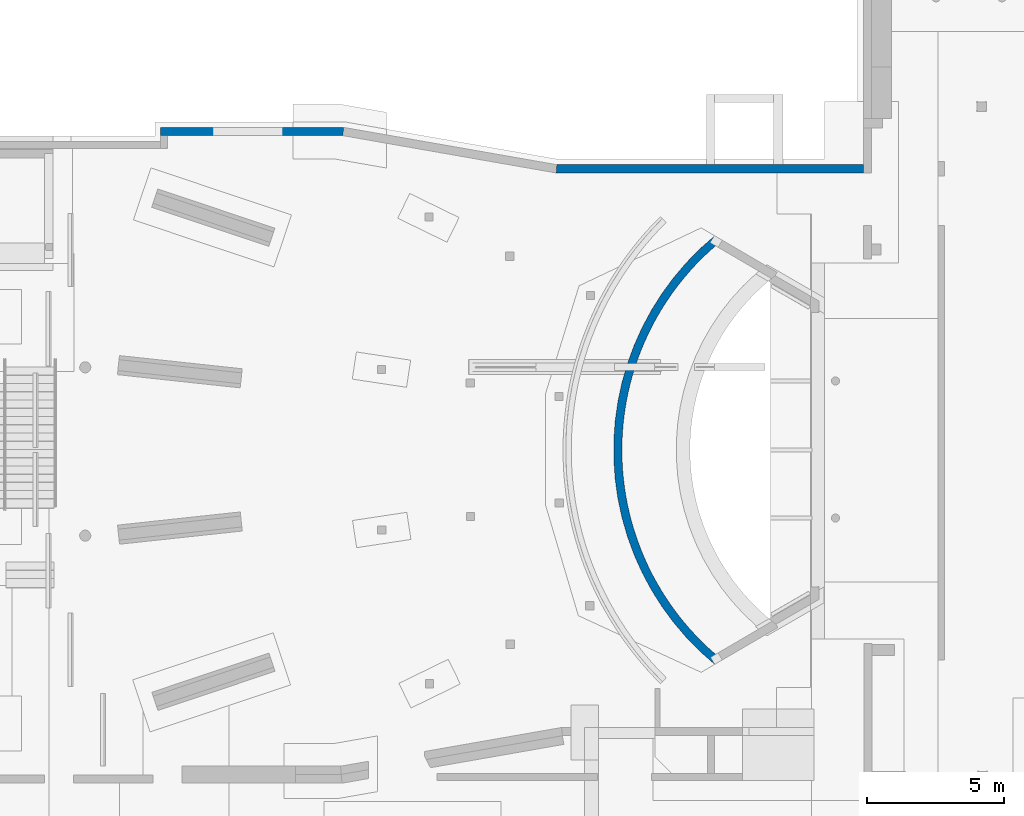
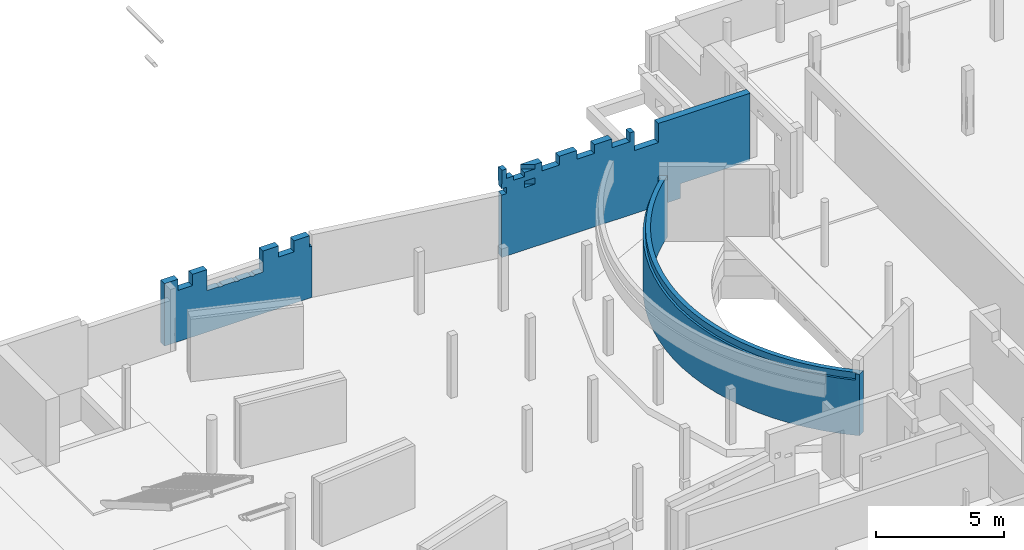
# One storey, part 41 of 42: 3 walls.
"""IFC2X3 building model written with IfcOpenShell, lengths in millimetres."""

from ifc_helpers import new_model, entity, si_unit, converted_unit, derived_unit, direction, frame, origin, place, context, subcontext, project, spatial, faceted_brep, material, layer, layer_set, type_object, element, save


model = new_model("IFC2X3")

# Units and contexts
model_context = context("Model", 3, precision=0.01, world=origin(), true_north=direction((6.12303176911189e-17, 1.0)))
body_context = subcontext(model_context, "Body", "Model", "MODEL_VIEW")
ifc_project = project(units=[si_unit("LENGTHUNIT", "METRE", prefix="MILLI"), si_unit("AREAUNIT", "SQUARE_METRE", prefix="MILLI"), si_unit("VOLUMEUNIT", "CUBIC_METRE"), converted_unit("PLANEANGLEUNIT", "DEGREE", entity("IfcRatioMeasure", 0.0174532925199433), si_unit("PLANEANGLEUNIT", "RADIAN"), dimensions=[0, 0, 0, 0, 0, 0, 0]), si_unit("MASSUNIT", "GRAM", prefix="KILO"), derived_unit("MASSDENSITYUNIT", [(si_unit("MASSUNIT", "GRAM", prefix="KILO"), 1), (si_unit("LENGTHUNIT", "METRE"), -3)]), derived_unit("MOMENTOFINERTIAUNIT", [(si_unit("LENGTHUNIT", "METRE"), 4)]), si_unit("TIMEUNIT", "SECOND"), si_unit("FREQUENCYUNIT", "HERTZ"), si_unit("THERMODYNAMICTEMPERATUREUNIT", "DEGREE_CELSIUS"), derived_unit("THERMALTRANSMITTANCEUNIT", [(si_unit("MASSUNIT", "GRAM", prefix="KILO"), 1), (si_unit("THERMODYNAMICTEMPERATUREUNIT", "KELVIN"), -1), (si_unit("TIMEUNIT", "SECOND"), -3)]), derived_unit("VOLUMETRICFLOWRATEUNIT", [(si_unit("LENGTHUNIT", "METRE"), 3), (si_unit("TIMEUNIT", "SECOND"), -1)]), si_unit("ELECTRICCURRENTUNIT", "AMPERE"), si_unit("ELECTRICVOLTAGEUNIT", "VOLT"), si_unit("POWERUNIT", "WATT"), si_unit("FORCEUNIT", "NEWTON", prefix="KILO"), si_unit("ILLUMINANCEUNIT", "LUX"), si_unit("LUMINOUSFLUXUNIT", "LUMEN"), si_unit("LUMINOUSINTENSITYUNIT", "CANDELA"), derived_unit("USERDEFINED", [(si_unit("MASSUNIT", "GRAM", prefix="KILO"), -1), (si_unit("LENGTHUNIT", "METRE"), -2), (si_unit("TIMEUNIT", "SECOND"), 3), (si_unit("LUMINOUSFLUXUNIT", "LUMEN"), 1)]), derived_unit("LINEARVELOCITYUNIT", [(si_unit("LENGTHUNIT", "METRE"), 1), (si_unit("TIMEUNIT", "SECOND"), -1)]), si_unit("PRESSUREUNIT", "PASCAL"), derived_unit("USERDEFINED", [(si_unit("LENGTHUNIT", "METRE"), -2), (si_unit("MASSUNIT", "GRAM", prefix="KILO"), 1), (si_unit("TIMEUNIT", "SECOND"), -2)]), derived_unit("LINEARFORCEUNIT", [(si_unit("MASSUNIT", "GRAM", prefix="KILO"), 1), (si_unit("LENGTHUNIT", "METRE"), 1), (si_unit("TIMEUNIT", "SECOND"), -2), (si_unit("LENGTHUNIT", "METRE"), -1)]), derived_unit("PLANARFORCEUNIT", [(si_unit("MASSUNIT", "GRAM", prefix="KILO"), 1), (si_unit("LENGTHUNIT", "METRE"), 1), (si_unit("TIMEUNIT", "SECOND"), -2), (si_unit("LENGTHUNIT", "METRE"), -2)])], contexts=[model_context])

# Site, building, storey
site_placement = place(None, origin())
site = spatial("IfcSite", under=ifc_project, at=site_placement, Name="Theater aan de Parade", CompositionType="ELEMENT")
building_placement = place(site_placement, origin())
building = spatial("IfcBuilding", under=site, at=building_placement, Name="Theater aan de Parade", CompositionType="ELEMENT")
storey_placement = place(building_placement, frame((0.0, 0.0, -3300.0)))
storey = spatial("IfcBuildingStorey", under=building, at=storey_placement, Name="-1 kelder", CompositionType="ELEMENT", Elevation=-3300.0)

# Walls
ifc_material_1 = material(Name="00_PBT_MAT_beton t.p.g.")
ifc_layer_1 = layer(ifc_material_1, 300.0)
ifc_layer_set_1 = layer_set([ifc_layer_1], Name="Basic Wall:16_PBT_WA_beton t.p.g._d=300_bestaand")
wall_type_1 = type_object("IfcWallType", Name="Basic Wall:16_PBT_WA_beton t.p.g._d=300_bestaand", PredefinedType="STANDARD", material=ifc_layer_set_1)
wall_1_placement = place(storey_placement, frame((59441.4285714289, 42700.0, -40.0)))
element("IfcWall", 1, at=wall_1_placement, inside=storey, type_object=wall_type_1, Name="Basic Wall:16_PBT_WA_beton t.p.g._d=300_bestaand", ObjectType="Basic Wall:16_PBT_WA_beton t.p.g._d=300_bestaand", context=body_context, shape_type="Brep", body=[
    faceted_brep([(11198.5714285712, -150.0, 700.0), (11198.5714285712, -150.0, 3920.0), (11048.5714285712, -150.0, 3920.0), (7764.63097970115, -150.0, 3920.0), (7054.82350407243, -150.0, 3920.0), (7054.82350407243, -150.0, 3009.99110733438), (5980.62350407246, -150.0, 3009.99110733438), (5980.62350407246, -150.0, 3920.0), (5826.14764923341, -150.0, 3920.0), (5822.91216672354, -150.0, 3920.0), (5770.62350407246, -150.0, 3920.0), (5770.62350407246, -150.0, 3500.0), (4965.60299188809, -150.0, 3500.0), (4965.60299188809, -150.0, 3920.0), (4175.60299188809, -150.0, 3920.0), (4175.60299188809, -150.0, 3500.0), (3385.60299188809, -150.0, 3500.0), (3385.60299188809, -150.0, 3920.0), (2595.60299188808, -150.0, 3920.0), (2595.60299188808, -150.0, 3500.0), (1805.60299188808, -150.0, 3500.0), (1805.60299188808, -150.0, 3920.0), (1493.14810399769, -150.0, 3920.0), (1493.14810399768, -150.0, 3700.0), (1015.60299188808, -150.0, 3700.0), (1015.60299188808, -150.0, 3500.0), (523.453684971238, -150.0, 3500.0), (523.453684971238, -150.0, 3700.0), (225.602991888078, -150.0, 3700.0), (225.602991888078, -150.0, 4150.0), (13.026021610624, -150.0, 4150.0), (13.026021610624, -150.0, 3500.0), (0.0, -150.0, 3500.0), (0.0, -150.0, 3280.0), (225.602991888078, -150.0, 3280.0), (225.602991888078, -150.0, 2980.0), (0.0, -150.0, 2980.0), (0.0, -150.0, 0.0), (8048.41950610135, -150.0, 0.0), (8048.41950610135, -150.0, 300.0), (8048.41950610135, -150.0, 700.0), (1493.14810399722, -150.0, 3280.0), (1493.1481039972, -150.0, 2980.0), (1015.60299188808, -150.0, 2980.0), (1015.60299188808, -150.0, 3280.0), (11198.5714285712, 150.0, 3920.0), (11198.5714285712, 150.0, 700.0), (8048.41950610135, 150.0, 700.0), (8048.41950610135, 150.0, 300.0), (8048.41950610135, 150.0, 0.0), (26.052043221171, 150.0, 0.0), (26.0520432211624, 150.0, 2980.0), (225.602991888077, 150.0, 2980.0), (225.602991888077, 150.0, 3280.0), (26.0520432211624, 150.0, 3280.0), (26.0520432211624, 150.0, 3500.0), (13.0260216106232, 150.0, 3500.0), (13.0260216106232, 150.0, 4150.0), (26.0520432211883, 150.0, 4150.0), (225.602991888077, 150.0, 4150.0), (225.602991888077, 150.0, 3700.0), (523.453684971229, 150.0, 3700.0), (523.453684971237, 150.0, 3500.0), (1015.60299188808, 150.0, 3500.0), (1015.60299188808, 150.0, 3920.0), (1805.60299188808, 150.0, 3920.0), (1805.60299188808, 150.0, 3500.0), (2595.60299188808, 150.0, 3500.0), (2595.60299188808, 150.0, 3920.0), (3385.60299188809, 150.0, 3920.0), (3385.60299188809, 150.0, 3500.0), (4175.60299188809, 150.0, 3500.0), (4175.60299188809, 150.0, 3920.0), (4965.60299188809, 150.0, 3920.0), (4965.60299188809, 150.0, 3500.0), (5770.62350407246, 150.0, 3500.0), (5770.62350407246, 150.0, 3920.0), (5978.57142857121, 150.0, 3920.0), (5980.62350407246, 150.0, 3920.0), (5980.62350407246, 150.0, 3009.99110733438), (7054.82350407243, 150.0, 3009.99110733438), (7054.82350407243, 150.0, 3920.0), (7764.63097970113, 150.0, 3920.0), (1015.60299188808, 125.661140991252, 3280.0), (1015.60299188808, 125.661140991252, 2980.0), (1015.60299188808, 125.66114099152, 3920.0), (1015.60299188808, 125.66114099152, 3700.0), (13.0260216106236, 0.0, 3500.0)], [[[0, 1, 2, 3, 4, 5, 6, 7, 8, 9, 10, 11, 12, 13, 14, 15, 16, 17, 18, 19, 20, 21, 22, 23, 24, 25, 26, 27, 28, 29, 30, 31, 32, 33, 34, 35, 36, 37, 38, 39, 40], [41, 42, 43, 44]], [[45, 46, 47, 48, 49, 50, 51, 52, 53, 54, 55, 56, 57, 58, 59, 60, 61, 62, 63, 64, 65, 66, 67, 68, 69, 70, 71, 72, 73, 74, 75, 76, 77, 78, 79, 80, 81, 82]], [[36, 35, 52, 51]], [[83, 41, 44]], [[42, 41, 83, 84]], [[1, 0, 46, 45]], [[1, 45, 82, 81, 4, 3, 2]], [[30, 29, 59, 58, 57]], [[46, 0, 40, 47]], [[47, 40, 39, 38, 49, 48]], [[38, 37, 50, 49]], [[12, 74, 73, 13]], [[14, 13, 73, 72]], [[14, 72, 71, 15]], [[16, 70, 69, 17]], [[18, 17, 69, 68]], [[18, 68, 67, 19]], [[20, 66, 65, 21]], [[22, 21, 65, 64, 85]], [[24, 23, 86]], [[29, 28, 60, 59]], [[5, 4, 81, 80]], [[6, 5, 80, 79]], [[52, 35, 34, 53]], [[43, 84, 83, 44]], [[15, 71, 70, 16]], [[63, 25, 24, 86, 85, 64]], [[26, 62, 61, 27]], [[7, 78, 77, 76, 10, 9, 8]], [[10, 76, 75, 11]], [[31, 87, 32]], [[32, 87, 55, 54, 33]], [[56, 55, 87]], [[23, 22, 85, 86]], [[30, 57, 56, 87, 31]], [[6, 79, 78, 7]], [[50, 37, 36, 51]], [[19, 67, 66, 20]], [[25, 63, 62, 26]], [[74, 12, 11, 75]], [[60, 28, 27, 61]], [[34, 33, 54, 53]], [[42, 84, 43]]]),
])
wall_2_placement = place(storey_placement, frame((45025.0, 44060.0, -40.0)))
element("IfcWall", 2, at=wall_2_placement, inside=storey, type_object=wall_type_1, Name="Basic Wall:16_PBT_WA_beton t.p.g._d=300_bestaand", ObjectType="Basic Wall:16_PBT_WA_beton t.p.g._d=300_bestaand", context=body_context, shape_type="Brep", body=[
    faceted_brep([(0.0, -150.0, 0.0), (250.0, -150.0, 0.0), (6645.0, -150.0, 0.0), (6645.0, -150.0, 2450.0), (6545.0, -150.0, 2450.0), (6545.0, -150.0, 2980.0), (6220.0, -150.0, 2980.0), (6070.0, -150.0, 2980.0), (5845.0, -150.0, 2980.0), (5845.0, -150.0, 2450.0), (5145.0, -150.0, 2450.0), (5145.0, -150.0, 2980.0), (4445.0, -150.0, 2980.0), (4445.0, -150.0, 2450.0), (4445.0, -150.0, 1980.0), (4080.0, -150.0, 1980.0), (4080.0, -150.0, 1950.0), (3920.0, -150.0, 1950.0), (3920.0, -150.0, 1980.0), (3360.0, -150.0, 1980.0), (3360.0, -150.0, 1950.0), (3200.0, -150.0, 1950.0), (3200.0, -150.0, 1980.0), (2640.0, -150.0, 1980.0), (2640.0, -150.0, 1950.0), (2480.0, -150.0, 1950.0), (2480.0, -150.0, 1980.0), (1915.0, -150.0, 1980.0), (1915.0, -150.0, 2450.0), (1915.0, -150.0, 2980.0), (1265.0, -150.0, 2980.0), (1265.0, -150.0, 2450.0), (615.0, -150.0, 2450.0), (615.0, -150.0, 2980.0), (250.0, -150.0, 2980.0), (0.0, -150.0, 2980.0), (0.0, -150.0, 2450.0), (6671.05204322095, 150.0, 0.0), (0.0, 150.0, 0.0), (0.0, 150.0, 2450.0), (0.0, 150.0, 2980.0), (615.0, 150.0, 2980.0), (615.0, 150.0, 2450.0), (1265.0, 150.0, 2450.0), (1265.0, 150.0, 2980.0), (1915.0, 150.0, 2980.0), (1915.0, 150.0, 2450.0), (1915.0, 150.0, 1980.0), (2480.0, 150.0, 1980.0), (2480.0, 150.0, 1950.0), (2640.0, 150.0, 1950.0), (2640.0, 150.0, 1980.0), (3200.0, 150.0, 1980.0), (3200.0, 150.0, 1950.0), (3360.0, 150.0, 1950.0), (3360.0, 150.0, 1980.0), (3920.0, 150.0, 1980.0), (3920.0, 150.0, 1950.0), (4080.0, 150.0, 1950.0), (4080.0, 150.0, 1980.0), (4445.0, 150.0, 1980.0), (4445.0, 150.0, 2450.0), (4445.0, 150.0, 2980.0), (5145.0, 150.0, 2980.0), (5145.0, 150.0, 2450.0), (5845.0, 150.0, 2450.0), (5845.0, 150.0, 2980.0), (6545.0, 150.0, 2980.0), (6545.0, 150.0, 2450.0), (6671.05204322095, 150.0, 2450.0)], [[[0, 1, 2, 3, 4, 5, 6, 7, 8, 9, 10, 11, 12, 13, 14, 15, 16, 17, 18, 19, 20, 21, 22, 23, 24, 25, 26, 27, 28, 29, 30, 31, 32, 33, 34, 35, 36]], [[37, 38, 39, 40, 41, 42, 43, 44, 45, 46, 47, 48, 49, 50, 51, 52, 53, 54, 55, 56, 57, 58, 59, 60, 61, 62, 63, 64, 65, 66, 67, 68, 69]], [[2, 37, 69, 3]], [[35, 40, 39, 38, 0, 36]], [[2, 1, 0, 38, 37]], [[8, 7, 6, 5, 67, 66]], [[27, 47, 46, 45, 29, 28]], [[60, 14, 13, 12, 62, 61]], [[15, 14, 60, 59]], [[16, 15, 59, 58]], [[17, 16, 58, 57]], [[18, 17, 57, 56]], [[19, 18, 56, 55]], [[20, 19, 55, 54]], [[21, 20, 54, 53]], [[22, 21, 53, 52]], [[23, 22, 52, 51]], [[24, 23, 51, 50]], [[25, 24, 50, 49]], [[26, 25, 49, 48]], [[27, 26, 48, 47]], [[31, 43, 42, 32]], [[43, 31, 30, 44]], [[32, 42, 41, 33]], [[4, 68, 67, 5]], [[65, 9, 8, 66]], [[10, 64, 63, 11]], [[9, 65, 64, 10]], [[68, 4, 3, 69]], [[12, 11, 63, 62]], [[30, 29, 45, 44]], [[40, 35, 34, 33, 41]]]),
])
ifc_material_2 = material(Name="00_PBT_MAT_beton t.p.g._C30/37")
ifc_layer_2 = layer(ifc_material_2, 300.0)
ifc_layer_set_2 = layer_set([ifc_layer_2], Name="Basic Wall:28_PBT_WA_beton t.p.g._d=300_C30/37")
wall_type_2 = type_object("IfcWallType", Name="Basic Wall:28_PBT_WA_beton t.p.g._d=300_C30/37", PredefinedType="STANDARD", material=ifc_layer_set_2)
wall_3_placement = place(storey_placement, frame((65401.6030437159, 40215.5330916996, 310.0)))
element("IfcWall", 3, at=wall_3_placement, inside=storey, type_object=wall_type_2, Name="Basic Wall:28_PBT_WA_beton t.p.g._d=300_C30/37", ObjectType="Basic Wall:28_PBT_WA_beton t.p.g._d=300_C30/37", context=body_context, shape_type="Brep", body=[
    faceted_brep([(-3078.79495195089, -4124.94220525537, 2930.0), (-3313.11341783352, -4795.57646024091, 2930.0), (-3499.36066628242, -5481.11815106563, 2930.0), (-3636.60184563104, -6178.12626156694, 2930.0), (-3724.14808586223, -6883.10222089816, 2930.0), (-3761.55995633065, -7592.50746429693, 2930.0), (-3761.39695558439, -7947.75869851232, 2930.0), (-3723.33410490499, -8657.12931167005, 2930.0), (-3635.14097016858, -9362.02463609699, 2930.0), (-3497.2602290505, -10058.9065117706, 2930.0), (-3310.38396179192, -10744.2770014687, 2930.0), (-3075.4501773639, -11414.6959483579, 2930.0), (-2793.63810521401, -12066.7982435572, 2930.0), (-2466.36227622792, -12697.3107170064, 2930.0), (-2095.26542261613, -13303.0685668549, 2930.0), (-1682.21023236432, -13881.0312449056, 2930.0), (-1229.26999963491, -14428.2977183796, 2930.0), (-738.718218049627, -14942.121031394, 2930.0), (-213.017169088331, -15419.9220930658, 2930.0), (-304.987955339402, -15473.0118875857, 2930.0), (-243.811149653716, -15524.735360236, 2930.0), (-182.220690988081, -15575.9785476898, 2930.0), (94.1758165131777, -15414.3146712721, 2930.0), (-174.754782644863, -15189.3498215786, 2930.0), (-435.488959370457, -14954.9345067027, 2930.0), (-687.694800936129, -14711.3671356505, 2930.0), (-931.051251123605, -14458.9577679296, 2930.0), (-1165.24851892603, -14198.0277188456, 2930.0), (-1389.98847290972, -13928.90915047, 2930.0), (-1604.98502073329, -13651.9446488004, 2930.0), (-1809.96447334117, -13367.486787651, 2930.0), (-2004.66589336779, -13075.8976798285, 2930.0), (-2188.84142730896, -12777.5485161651, 2930.0), (-2362.2566210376, -12472.8190929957, 2930.0), (-2524.69071826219, -12162.0973286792, 2930.0), (-2675.93694154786, -11845.7787697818, 2930.0), (-2815.80275554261, -11524.2660875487, 2930.0), (-2944.11011207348, -11197.9685653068, 2930.0), (-3060.69567680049, -10867.3015774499, 2930.0), (-3165.41103714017, -10532.6860606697, 2930.0), (-3258.12289119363, -10194.5479781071, 2930.0), (-3338.713217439, -9853.31777710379, 2930.0), (-3407.07942497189, -9509.42984124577, 2930.0), (-3463.13448410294, -9163.3219373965, 2930.0), (-3506.80703714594, -8815.43465842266, 2930.0), (-3538.04148925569, -8466.21086232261, 2930.0), (-3556.79807919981, -8116.09510847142, 2930.0), (-3563.0529299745, -7765.53309169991, 2930.0), (-3556.79807919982, -7414.9710749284, 2930.0), (-3538.04148925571, -7064.85532107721, 2930.0), (-3506.80703714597, -6715.63152497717, 2930.0), (-3463.13448410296, -6367.74424600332, 2930.0), (-3407.07942497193, -6021.63634215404, 2930.0), (-3338.71321743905, -5677.74840629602, 2930.0), (-3258.12289119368, -5336.51820529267, 2930.0), (-3165.41103714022, -4998.3801227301, 2930.0), (-3060.69567680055, -4663.76460594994, 2930.0), (-2944.11011207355, -4333.09761809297, 2930.0), (-2815.80275554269, -4006.80009585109, 2930.0), (-2675.93694154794, -3685.28741361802, 2930.0), (-2524.69071826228, -3368.96885472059, 2930.0), (-2362.2566210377, -3058.24709040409, 2930.0), (-2188.84142730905, -2753.51766723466, 2930.0), (-2004.66589336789, -2455.16850357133, 2930.0), (-1809.96447334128, -2163.57939574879, 2930.0), (-1604.98502073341, -1879.12153459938, 2930.0), (-1389.98847290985, -1602.15703292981, 2930.0), (-1165.24851892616, -1333.03846455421, 2930.0), (-931.051251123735, -1072.10841547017, 2930.0), (-687.694800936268, -819.699047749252, 2930.0), (-435.488959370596, -576.131676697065, 2930.0), (-174.754782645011, -341.7163618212, 2930.0), (94.1758165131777, -116.751512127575, 2930.0), (-182.220690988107, 44.912364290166, 2930.0), (-247.331510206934, -9.28476323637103, 2930.0), (-311.979443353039, -64.0184853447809, 2930.0), (-220.038602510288, -117.090993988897, 2930.0), (-745.300969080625, -595.374271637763, 2930.0), (-1235.38102673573, -1109.64753022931, 2930.0), (-1687.81886177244, -1657.32942041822, 2930.0), (-2100.34350231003, -2235.67090117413, 2930.0), (-2470.88431723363, -2841.76903835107, 2930.0), (-2797.58140954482, -3472.58157570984, 2930.0), (-2987.90027687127, -11078.1228525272, 0.0), (-2868.55952444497, -11394.2041729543, 0.0), (-2738.42375278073, -11705.9963089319, 0.0), (-2597.6467799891, -12013.1307117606, 0.0), (-2446.39500201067, -12315.2443377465, 0.0), (-2284.84719596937, -12611.9800772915, 0.0), (-2113.19430889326, -12902.9871769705, 0.0), (-1931.6392320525, -13187.9216540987, 0.0), (-1740.39656118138, -13466.4467032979, 0.0), (-1539.69234286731, -13738.2330945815, 0.0), (-1329.76380740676, -14002.9595624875, 0.0), (-1110.85908844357, -14260.3131858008, 0.0), (-883.236929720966, -14509.9897574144, 0.0), (-647.166379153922, -14751.6941440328, 0.0), (-402.926473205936, -14985.1406328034, 0.0), (-150.808265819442, -15210.0512239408, 0.0), (-29.1534070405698, -15313.1700125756, 0.0), (94.1758165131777, -15414.3146712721, 0.0), (-182.220690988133, -15575.9785476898, 0.0), (-716.125181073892, -15102.7483147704, 0.0), (-1215.3865680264, -14593.1024324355, 0.0), (-1677.52694611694, -14049.5703461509, 0.0), (-2100.25264649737, -13474.8496834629, 0.0), (-2481.46562100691, -12871.7928652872, 0.0), (-2819.27385508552, -12243.392948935, 0.0), (-3112.00075811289, -11592.7687731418, 0.0), (-3358.19348456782, -10923.1494788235, 0.0), (-3556.63014470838, -10237.8584823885, 0.0), (-3706.32586898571, -9540.29698114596, 0.0), (-3806.53769609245, -8833.92707267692, 0.0), (-3856.76826038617, -8122.25457194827, 0.0), (-3856.76826038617, -7408.81161145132, 0.0), (-3806.53769609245, -6697.13911072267, 0.0), (-3706.3258689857, -5990.76920225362, 0.0), (-3556.63014470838, -5293.2077010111, 0.0), (-3358.1934845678, -4607.91670457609, 0.0), (-3112.00075811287, -3938.29741025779, 0.0), (-2819.2738550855, -3287.67323446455, 0.0), (-2481.46562100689, -2659.27331811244, 0.0), (-2100.25264649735, -2056.21649993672, 0.0), (-1677.52694611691, -1481.49583724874, 0.0), (-1215.38656802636, -937.963750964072, 0.0), (-716.125181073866, -428.317868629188, 0.0), (-182.220690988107, 44.912364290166, 0.0), (94.1758165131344, -116.751512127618, 0.0), (-29.1537668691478, -217.896470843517, 0.0), (-150.808934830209, -321.015543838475, 0.0), (-402.926407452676, -545.925489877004, 0.0), (-647.166289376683, -779.371950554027, 0.0), (-883.236846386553, -1021.07633767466, 0.0), (-1110.85901104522, -1270.75290971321, 0.0), (-1329.76373568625, -1528.10653359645, 0.0), (-1539.69227656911, -1792.83300219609, 0.0), (-1740.39650005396, -2064.61939427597, 0.0), (-1931.63917584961, -2343.14444435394, 0.0), (-2113.19425737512, -2628.07892242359, 0.0), (-2284.84714890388, -2919.08602308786, 0.0), (-2446.39495917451, -3215.82176364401, 0.0), (-2597.64674116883, -3517.93539064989, 0.0), (-2738.42371777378, -3825.06979449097, 0.0), (-2868.55949306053, -4136.86193145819, 0.0), (-2987.9002489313, -4452.94325283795, 0.0), (-3096.30492690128, -4772.9401405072, 0.0), (-3193.64539480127, -5096.47434851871, 0.0), (-3279.80659820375, -5423.16345015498, 0.0), (-3354.68669639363, -5752.6212899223, 0.0), (-3418.19718272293, -6084.45843995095, 0.0), (-3470.2629892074, -6418.28266026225, 0.0), (-3510.82257524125, -6753.69936235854, 0.0), (-3539.82800032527, -7090.31207558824, 0.0), (-3557.24498072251, -7427.72291573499, 0.0), (-3563.0529299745, -7765.5330552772, 0.0), (-3557.24498323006, -8103.34319476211, 0.0), (-3539.82800535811, -8440.75403473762, 0.0), (-3510.82258283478, -8777.36674768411, 0.0), (-3470.26299941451, -9112.78344938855, 0.0), (-3418.19719561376, -9446.60766920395, 0.0), (-3354.68671205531, -9778.44481863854, 0.0), (-3279.80661673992, -10107.9026577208, 0.0), (-3193.64541633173, -10434.5917585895, 0.0), (-3096.30495156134, -10758.1259657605, 0.0), (-1783.5590595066, -1617.86860602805, 2630.0), (-2197.02897391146, -2200.64162682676, 2630.0), (-182.220690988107, 44.912364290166, 1465.0), (-838.682232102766, -546.891073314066, 2630.0), (-1330.02416228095, -1065.70209048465, 2630.0), (-2568.37542147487, -2811.11978349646, 2630.0), (-3736.37330603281, -6168.7483058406, 2630.0), (-3824.07695377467, -6877.89556421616, 2630.0), (-3177.52175485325, -4102.91150009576, 2630.0), (-3412.28897021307, -4777.79379981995, 2630.0), (-3598.88247614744, -5467.55073340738, 2630.0), (-2895.7496323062, -3446.26377502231, 2630.0), (-3861.55678166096, -7591.46197765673, 2630.0), (-311.979443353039, -64.0184853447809, 2630.0), (-182.220690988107, 44.9123642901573, 2197.5000000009), (-182.220690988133, -15575.9785476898, 1465.0), (-304.987955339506, -15473.0118875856, 2630.0), (-832.128712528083, -14990.6174576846, 2630.0), (-3409.57374620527, -10762.0519063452, 2630.0), (-3174.19420196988, -11436.7208874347, 2630.0), (-3823.26730875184, -8662.32468583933, 2630.0), (-3734.92017766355, -9371.3920650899, 2630.0), (-3596.79309891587, -10072.4645820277, 2630.0), (-2891.82631696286, -12093.1126465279, 2630.0), (-2191.97559980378, -13338.1002240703, 2630.0), (-1777.97701515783, -13920.4977994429, 2630.0), (-1323.9412382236, -14472.2525249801, 2630.0), (-2563.87587612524, -12727.9592990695, 2630.0), (-182.220690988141, -15575.9785476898, 2197.5000000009), (-3861.39465084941, -7948.79257747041, 2630.0), (-2100.34350231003, -2235.67090117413, 2630.0), (-1687.81886177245, -1657.32942041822, 2630.0), (-1235.38102673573, -1109.64753022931, 2630.0), (-745.300969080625, -595.374271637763, 2630.0), (-220.038602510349, -117.090993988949, 2630.0), (-213.017169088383, -15419.9220930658, 2630.0), (-738.718218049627, -14942.121031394, 2630.0), (-1229.26999963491, -14428.2977183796, 2630.0), (-1682.21023236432, -13881.0312449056, 2630.0), (-2095.26542261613, -13303.0685668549, 2630.0), (-2466.36227622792, -12697.3107170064, 2630.0), (-2793.63810521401, -12066.7982435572, 2630.0), (-3075.4501773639, -11414.6959483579, 2630.0), (-3310.38396179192, -10744.2770014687, 2630.0), (-3497.2602290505, -10058.9065117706, 2630.0), (-3635.14097016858, -9362.02463609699, 2630.0), (-3723.33410490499, -8657.12931167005, 2630.0), (-3761.39695558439, -7947.75869851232, 2630.0), (-3761.55995633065, -7592.50746429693, 2630.0), (-3724.14808586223, -6883.10222089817, 2630.0), (-3636.60184563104, -6178.12626156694, 2630.0), (-3499.36066628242, -5481.11815106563, 2630.0), (-3313.11341783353, -4795.57646024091, 2630.0), (-3078.79495195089, -4124.94220525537, 2630.0), (-2797.58140954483, -3472.58157570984, 2630.0), (-2470.88431723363, -2841.76903835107, 2630.0)], [[[0, 1, 2, 3, 4, 5, 6, 7, 8, 9, 10, 11, 12, 13, 14, 15, 16, 17, 18, 19, 20, 21, 22, 23, 24, 25, 26, 27, 28, 29, 30, 31, 32, 33, 34, 35, 36, 37, 38, 39, 40, 41, 42, 43, 44, 45, 46, 47, 48, 49, 50, 51, 52, 53, 54, 55, 56, 57, 58, 59, 60, 61, 62, 63, 64, 65, 66, 67, 68, 69, 70, 71, 72, 73, 74, 75, 76, 77, 78, 79, 80, 81, 82]], [[83, 84, 85, 86, 87, 88, 89, 90, 91, 92, 93, 94, 95, 96, 97, 98, 99, 100, 101, 102, 103, 104, 105, 106, 107, 108, 109, 110, 111, 112, 113, 114, 115, 116, 117, 118, 119, 120, 121, 122, 123, 124, 125, 126, 127, 128, 129, 130, 131, 132, 133, 134, 135, 136, 137, 138, 139, 140, 141, 142, 143, 144, 145, 146, 147, 148, 149, 150, 151, 152, 153, 154, 155, 156, 157, 158, 159, 160, 161, 162, 163]], [[97, 24, 23]], [[99, 23, 22]], [[94, 27, 26]], [[95, 26, 25]], [[96, 25, 24]], [[91, 30, 29]], [[92, 29, 28]], [[89, 32, 31]], [[87, 34, 33]], [[88, 33, 32]], [[90, 31, 30]], [[93, 28, 27]], [[84, 37, 36]], [[85, 36, 35]], [[162, 40, 39]], [[163, 39, 38]], [[83, 38, 37]], [[159, 43, 42]], [[160, 42, 41]], [[157, 45, 44]], [[155, 47, 46]], [[156, 46, 45]], [[158, 44, 43]], [[161, 41, 40]], [[86, 35, 34]], [[100, 99, 22]], [[99, 98, 23]], [[23, 98, 97]], [[97, 96, 24]], [[25, 96, 95]], [[26, 95, 94]], [[27, 94, 93]], [[28, 93, 92]], [[29, 92, 91]], [[90, 30, 91]], [[31, 90, 89]], [[32, 89, 88]], [[33, 88, 87]], [[34, 87, 86]], [[35, 86, 85]], [[36, 85, 84]], [[83, 37, 84]], [[163, 38, 83]], [[162, 39, 163]], [[161, 40, 162]], [[160, 41, 161]], [[159, 42, 160]], [[159, 158, 43]], [[157, 44, 158]], [[45, 157, 156]], [[156, 155, 46]], [[155, 154, 47]], [[49, 48, 152]], [[154, 153, 47]], [[52, 51, 149]], [[51, 50, 150]], [[50, 49, 151]], [[53, 147, 54]], [[148, 53, 52]], [[54, 146, 55]], [[56, 55, 145]], [[58, 57, 143]], [[57, 56, 144]], [[58, 142, 59]], [[48, 47, 153]], [[61, 60, 140]], [[60, 59, 141]], [[64, 63, 137]], [[63, 62, 138]], [[62, 61, 139]], [[67, 66, 134]], [[66, 65, 135]], [[69, 68, 132]], [[71, 70, 130]], [[70, 69, 131]], [[68, 67, 133]], [[65, 64, 136]], [[72, 71, 128]], [[153, 152, 48]], [[152, 151, 49]], [[50, 151, 150]], [[150, 149, 51]], [[52, 149, 148]], [[53, 148, 147]], [[54, 147, 146]], [[55, 146, 145]], [[56, 145, 144]], [[143, 57, 144]], [[58, 143, 142]], [[59, 142, 141]], [[60, 141, 140]], [[61, 140, 139]], [[62, 139, 138]], [[63, 138, 137]], [[136, 64, 137]], [[135, 65, 136]], [[134, 66, 135]], [[133, 67, 134]], [[132, 68, 133]], [[131, 69, 132]], [[131, 130, 70]], [[129, 71, 130]], [[71, 129, 128]], [[128, 127, 72]], [[123, 122, 164]], [[122, 121, 165]], [[166, 125, 167]], [[124, 167, 125]], [[124, 123, 168]], [[169, 121, 120]], [[115, 170, 116]], [[114, 171, 115]], [[172, 119, 118]], [[118, 117, 173]], [[116, 174, 117]], [[120, 119, 175]], [[114, 113, 176]], [[114, 176, 171]], [[177, 73, 178, 166]], [[168, 167, 124]], [[164, 168, 123]], [[74, 73, 177]], [[179, 180, 181]], [[177, 75, 74]], [[126, 125, 166]], [[177, 166, 167]], [[174, 173, 117]], [[171, 170, 115]], [[174, 116, 170]], [[169, 165, 121]], [[172, 175, 119]], [[169, 120, 175]], [[173, 172, 118]], [[164, 122, 165]], [[110, 109, 182]], [[109, 108, 183]], [[112, 184, 113]], [[111, 185, 112]], [[111, 110, 186]], [[187, 108, 107]], [[102, 181, 103]], [[102, 101, 179]], [[188, 106, 105]], [[105, 104, 189]], [[103, 190, 104]], [[107, 106, 191]], [[192, 21, 180, 179]], [[181, 102, 179]], [[183, 182, 109]], [[187, 183, 108]], [[184, 193, 113]], [[186, 185, 111]], [[184, 112, 185]], [[182, 186, 110]], [[189, 188, 105]], [[181, 190, 103]], [[189, 104, 190]], [[20, 19, 180]], [[180, 21, 20]], [[188, 191, 106]], [[187, 107, 191]], [[113, 193, 176]], [[72, 127, 126, 166, 178, 73]], [[22, 21, 192, 179, 101, 100]], [[194, 195, 196, 197, 198, 177, 167, 168, 164, 165, 169, 175, 172, 173, 174, 170, 171, 176, 193, 184, 185, 186, 182, 183, 187, 191, 188, 189, 190, 181, 180, 199, 200, 201, 202, 203, 204, 205, 206, 207, 208, 209, 210, 211, 212, 213, 214, 215, 216, 217, 218, 219]], [[76, 75, 177, 198]], [[19, 18, 199, 180]], [[195, 79, 78, 196]], [[194, 80, 79, 195]], [[76, 198, 197, 77]], [[196, 78, 77, 197]], [[80, 194, 219, 81]], [[2, 215, 214, 3]], [[3, 214, 213, 4]], [[82, 218, 217, 0]], [[217, 216, 1, 0]], [[1, 216, 215, 2]], [[81, 219, 218, 82]], [[4, 213, 212, 5]], [[212, 211, 6, 5]], [[208, 9, 8, 209]], [[207, 10, 9, 208]], [[6, 211, 210, 7]], [[209, 8, 7, 210]], [[10, 207, 206, 11]], [[15, 202, 201, 16]], [[16, 201, 200, 17]], [[12, 205, 204, 13]], [[204, 203, 14, 13]], [[14, 203, 202, 15]], [[11, 206, 205, 12]], [[17, 200, 199, 18]]]),
])

save(model, "model.ifc")
